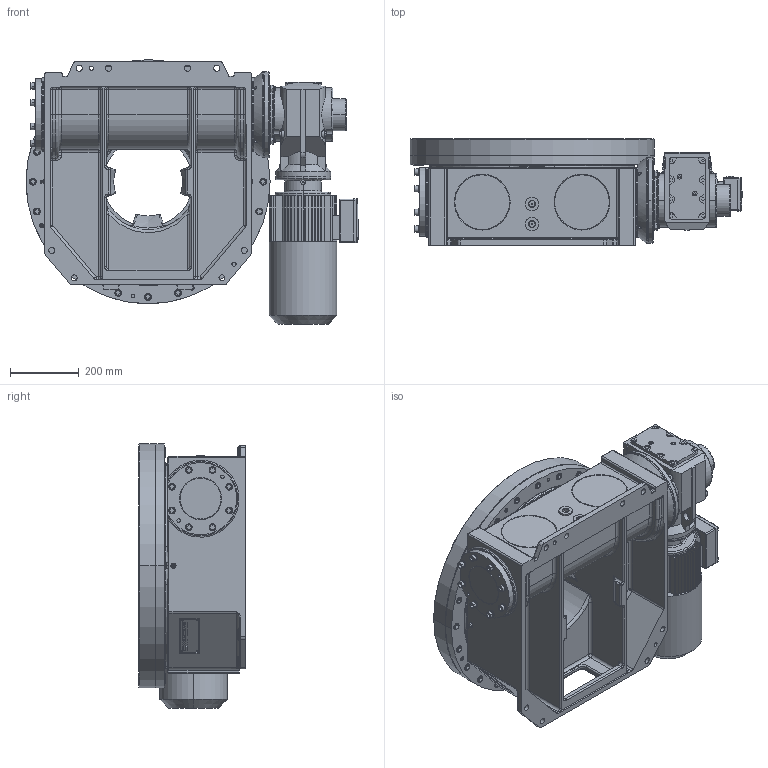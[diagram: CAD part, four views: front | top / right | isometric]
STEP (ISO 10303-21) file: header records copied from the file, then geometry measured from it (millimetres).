
FILE_DESCRIPTION((''),'2;1');
FILE_NAME('A6725','2009-07-08T',('mmueller'),('EXPERT Maschinenbau GmbH'),'PRO/ENGINEER BY PARAMETRIC TECHNOLOGY CORPORATION, 2007390','PRO/ENGINEER BY PARAMETRIC TECHNOLOGY CORPORATION, 2007390','');
FILE_SCHEMA(('CONFIG_CONTROL_DESIGN'));
Products named in the file (1): A6725
Bounding box: 965.6 x 310 x 770 mm (x, y, z)
Surface area: 3545844.4 mm2 (no closed solid volume)
Topology: 0 solids, 162 shells, 2157 faces, 6003 edges, 4018 vertices
Faces by surface type: plane 986, cylinder 612, cone 209, torus 189, bspline 110, sphere 51
Entity records: 74332 total; most frequent: CARTESIAN_POINT 18726, DIRECTION 12081, ORIENTED_EDGE 10572, EDGE_CURVE 5959, AXIS2_PLACEMENT_3D 4456, VERTEX_POINT 4018, VECTOR 3169, LINE 3169
